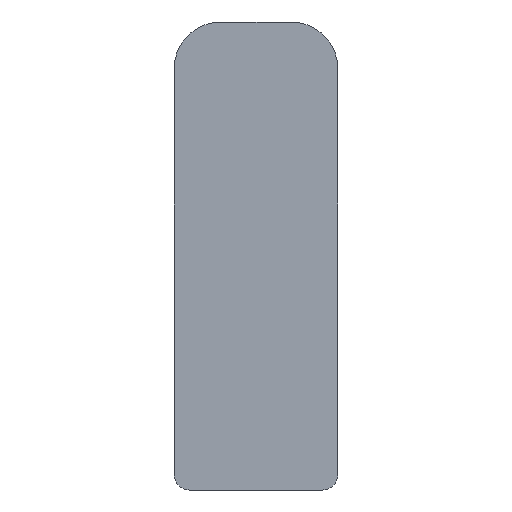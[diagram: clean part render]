
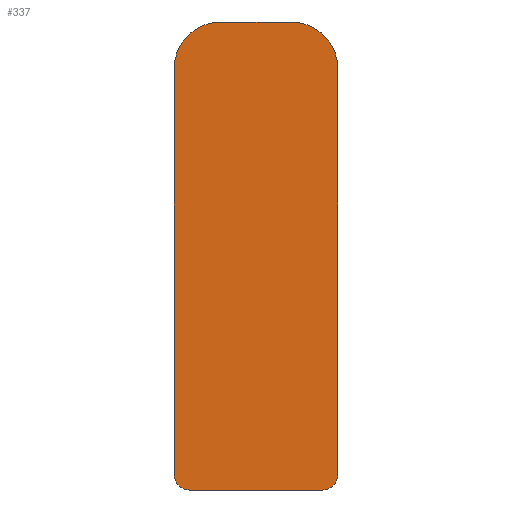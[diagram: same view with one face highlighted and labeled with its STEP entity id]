
A CAD part, left-side view. The second image highlights one B-rep face of the part: STEP entity #337.
In plain terms, the highlighted planar face has unit normal (-1, 0, 0).
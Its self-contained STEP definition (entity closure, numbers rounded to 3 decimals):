
#3 = CIRCLE ( 'NONE', #109, 1. ) ;
#7 = LINE ( 'NONE', #326, #19 ) ;
#9 = VECTOR ( 'NONE', #311, 1000. ) ;
#10 = LINE ( 'NONE', #312, #9 ) ;
#15 = CIRCLE ( 'NONE', #111, 3. ) ;
#19 = VECTOR ( 'NONE', #325, 1000. ) ;
#22 = ORIENTED_EDGE ( 'NONE', *, *, #138, .T. ) ;
#35 = CIRCLE ( 'NONE', #113, 3. ) ;
#42 = EDGE_LOOP ( 'NONE', ( #82, #83, #84, #85, #86, #87, #88, #22 ) ) ;
#82 = ORIENTED_EDGE ( 'NONE', *, *, #117, .T. ) ;
#83 = ORIENTED_EDGE ( 'NONE', *, *, #122, .T. ) ;
#84 = ORIENTED_EDGE ( 'NONE', *, *, #124, .T. ) ;
#85 = ORIENTED_EDGE ( 'NONE', *, *, #127, .T. ) ;
#86 = ORIENTED_EDGE ( 'NONE', *, *, #130, .T. ) ;
#87 = ORIENTED_EDGE ( 'NONE', *, *, #133, .T. ) ;
#88 = ORIENTED_EDGE ( 'NONE', *, *, #136, .T. ) ;
#100 = AXIS2_PLACEMENT_3D ( 'NONE', #225, #224, #223 ) ;
#107 = AXIS2_PLACEMENT_3D ( 'NONE', #282, #281, #279 ) ;
#109 = AXIS2_PLACEMENT_3D ( 'NONE', #304, #303, #300 ) ;
#111 = AXIS2_PLACEMENT_3D ( 'NONE', #322, #321, #319 ) ;
#113 = AXIS2_PLACEMENT_3D ( 'NONE', #231, #227, #226 ) ;
#117 = EDGE_CURVE ( 'NONE', #284, #278, #35, .T. ) ;
#122 = EDGE_CURVE ( 'NONE', #278, #295, #7, .T. ) ;
#124 = EDGE_CURVE ( 'NONE', #295, #216, #15, .T. ) ;
#127 = EDGE_CURVE ( 'NONE', #216, #298, #10, .T. ) ;
#130 = EDGE_CURVE ( 'NONE', #298, #318, #3, .T. ) ;
#133 = EDGE_CURVE ( 'NONE', #318, #317, #175, .T. ) ;
#136 = EDGE_CURVE ( 'NONE', #317, #287, #169, .T. ) ;
#138 = EDGE_CURVE ( 'NONE', #287, #284, #166, .T. ) ;
#157 = FACE_OUTER_BOUND ( 'NONE', #42, .T. ) ;
#166 = LINE ( 'NONE', #273, #168 ) ;
#168 = VECTOR ( 'NONE', #272, 1000. ) ;
#169 = CIRCLE ( 'NONE', #107, 1. ) ;
#174 = VECTOR ( 'NONE', #291, 1000. ) ;
#175 = LINE ( 'NONE', #293, #174 ) ;
#216 = VERTEX_POINT ( 'NONE', #263 ) ;
#223 = DIRECTION ( 'NONE',  ( 0., 0., 1. ) ) ;
#224 = DIRECTION ( 'NONE',  ( -1., 0., 0. ) ) ;
#225 = CARTESIAN_POINT ( 'NONE',  ( -203.25, -2.25, 27. ) ) ;
#226 = DIRECTION ( 'NONE',  ( 0., 0., 1. ) ) ;
#227 = DIRECTION ( 'NONE',  ( -1., 0., 0. ) ) ;
#228 = PLANE ( 'NONE',  #100 ) ;
#231 = CARTESIAN_POINT ( 'NONE',  ( -203.25, -2.25, 27. ) ) ;
#249 = CARTESIAN_POINT ( 'NONE',  ( -203.25, 4.25, 0. ) ) ;
#250 = CARTESIAN_POINT ( 'NONE',  ( -203.25, -4.25, 0. ) ) ;
#254 = CARTESIAN_POINT ( 'NONE',  ( -203.25, 5.25, 1. ) ) ;
#256 = CARTESIAN_POINT ( 'NONE',  ( -203.25, 2.25, 30. ) ) ;
#259 = CARTESIAN_POINT ( 'NONE',  ( -203.25, -5.25, 1. ) ) ;
#260 = CARTESIAN_POINT ( 'NONE',  ( -203.25, -5.25, 27. ) ) ;
#262 = CARTESIAN_POINT ( 'NONE',  ( -203.25, -2.25, 30. ) ) ;
#263 = CARTESIAN_POINT ( 'NONE',  ( -203.25, 5.25, 27. ) ) ;
#272 = DIRECTION ( 'NONE',  ( 0., 0., 1. ) ) ;
#273 = CARTESIAN_POINT ( 'NONE',  ( -203.25, -5.25, 1. ) ) ;
#278 = VERTEX_POINT ( 'NONE', #262 ) ;
#279 = DIRECTION ( 'NONE',  ( 0., 0., -1. ) ) ;
#281 = DIRECTION ( 'NONE',  ( -1., 0., 0. ) ) ;
#282 = CARTESIAN_POINT ( 'NONE',  ( -203.25, -4.25, 1. ) ) ;
#284 = VERTEX_POINT ( 'NONE', #260 ) ;
#287 = VERTEX_POINT ( 'NONE', #259 ) ;
#291 = DIRECTION ( 'NONE',  ( 0., -1., 0. ) ) ;
#293 = CARTESIAN_POINT ( 'NONE',  ( -203.25, -4.25, 0. ) ) ;
#295 = VERTEX_POINT ( 'NONE', #256 ) ;
#298 = VERTEX_POINT ( 'NONE', #254 ) ;
#300 = DIRECTION ( 'NONE',  ( 0., 0., -1. ) ) ;
#303 = DIRECTION ( 'NONE',  ( -1., 0., 0. ) ) ;
#304 = CARTESIAN_POINT ( 'NONE',  ( -203.25, 4.25, 1. ) ) ;
#311 = DIRECTION ( 'NONE',  ( 0., 0., -1. ) ) ;
#312 = CARTESIAN_POINT ( 'NONE',  ( -203.25, 5.25, 1. ) ) ;
#317 = VERTEX_POINT ( 'NONE', #250 ) ;
#318 = VERTEX_POINT ( 'NONE', #249 ) ;
#319 = DIRECTION ( 'NONE',  ( 0., 0., -1. ) ) ;
#321 = DIRECTION ( 'NONE',  ( -1., 0., 0. ) ) ;
#322 = CARTESIAN_POINT ( 'NONE',  ( -203.25, 2.25, 27. ) ) ;
#325 = DIRECTION ( 'NONE',  ( 0., 1., 0. ) ) ;
#326 = CARTESIAN_POINT ( 'NONE',  ( -203.25, -2.25, 30. ) ) ;
#337 = ADVANCED_FACE ( 'NONE', ( #157 ), #228, .T. ) ;
